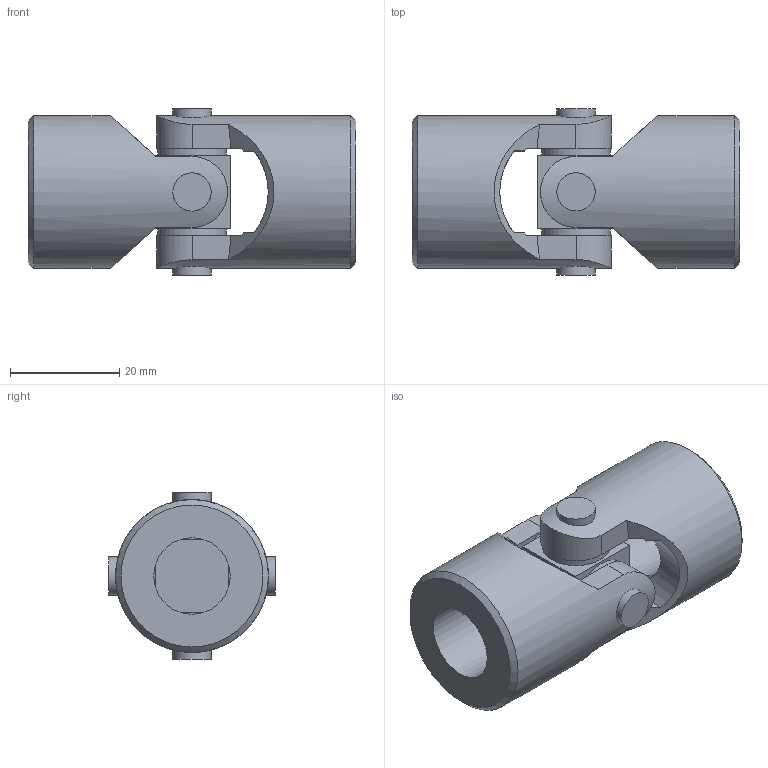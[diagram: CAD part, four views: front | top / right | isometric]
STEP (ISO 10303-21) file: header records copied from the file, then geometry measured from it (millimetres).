
FILE_DESCRIPTION(/* description */ ('EXTENSIBLE TRANSIMISSIONS Series G DIN 808 -2-'),/* implementation_level */ '2;1');
FILE_NAME(/* name */ '\\SRV2016\societa\Stefano\Disegni 3D\0Catalogo 3D\13Singoli X\Ø28_05X_SX0S1400.stp',/* time_stamp */ '2023-05-12T15:53:12+02:00',/* author */ ('acquisti'),/* organization */ ('MARIOFERRI'),/* preprocessor_version */ 'ST-DEVELOPER v15.6',/* originating_system */ 'Autodesk Inventor 2015',/* authorisation */ '');
FILE_SCHEMA (('AUTOMOTIVE_DESIGN { 1 0 10303 214 3 1 1 }'));
Length unit declared in the file: millimetre
Products named in the file (3): 05X SFE; 05X MOS; Ø28_05X_SX0S1400
Assembly tree (3 placements, depth 2):
  Ø28_05X_SX0S1400
    05X SFE
    05X MOS  x2
Bounding box: 60 x 30.5 x 30.5 mm (x, y, z)
Volume: 24491.3 mm3; surface area: 10166.6 mm2
Topology: 3 solids, 3 shells, 64 faces, 160 edges, 108 vertices
Faces by surface type: plane 32, cylinder 18, cone 12, torus 2
Full cylindrical faces by diameter (mm): 7 x4, 12.5 x4, 14 x2, 14.5 x2, 28 x2
Entity records: 1293 total; most frequent: CARTESIAN_POINT 420, DIRECTION 168, ORIENTED_EDGE 152, EDGE_CURVE 76, AXIS2_PLACEMENT_3D 72, EDGE_LOOP 58, VERTEX_POINT 58, FACE_OUTER_BOUND 39
